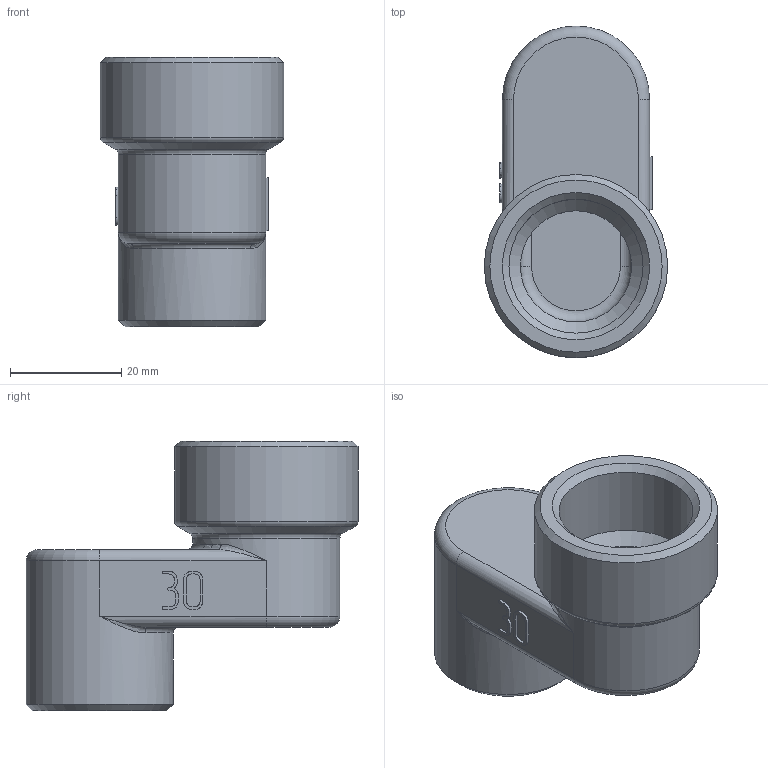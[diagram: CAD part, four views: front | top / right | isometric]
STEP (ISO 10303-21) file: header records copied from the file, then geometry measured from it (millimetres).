
FILE_DESCRIPTION(('STEP AP203'), '1');
FILE_NAME('ÂÐ.752289.012 - VTr.094.N.05030 - Ôèò. ðåçüá. ýêñö', '2024-06-21T11:53:31', ('Boss'), (''), 'C3D Converter', 'C3D Toolkit', '');
FILE_SCHEMA(('CONFIG_CONTROL_DESIGN'));
Length unit declared in the file: millimetre
Products named in the file (1): ВР.752289.012
Bounding box: 33 x 59.75 x 48.5 mm (x, y, z)
Volume: 20323.5 mm3; surface area: 12073.8 mm2
Topology: 1 solids, 1 shells, 131 faces, 341 edges, 210 vertices
Faces by surface type: plane 48, extrusion 44, cylinder 15, torus 11, bspline 8, cone 5
Full cylindrical faces by diameter (mm): 20 x2, 24.118 x1, 26.5 x2, 33 x1
Entity records: 4884 total; most frequent: CARTESIAN_POINT 1961, ORIENTED_EDGE 638, DIRECTION 457, EDGE_CURVE 319, VERTEX_POINT 210, VECTOR 209, LINE 165, B_SPLINE_CURVE_WITH_KNOTS 154
